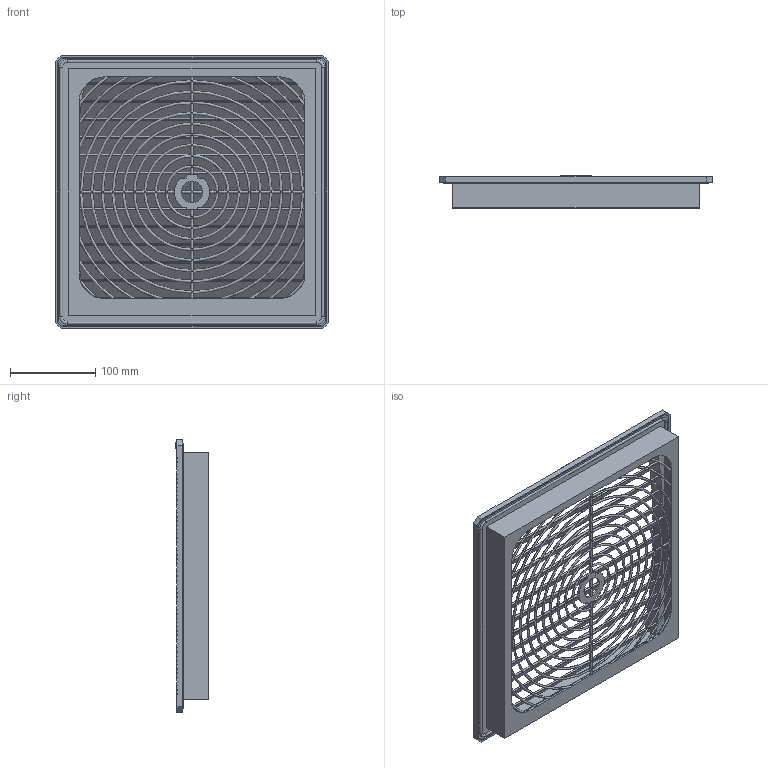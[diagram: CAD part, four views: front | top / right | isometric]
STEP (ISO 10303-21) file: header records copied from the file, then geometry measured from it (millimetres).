
FILE_DESCRIPTION (( 'STEP AP214' ), '1' );
FILE_NAME ('PFA 60000.STEP', '2007-05-30T10:04:43', ( 'Pfannenberg' ), ( 'Pfannenberg Group' ), 'SwSTEP 2.0', 'SolidWorks 2007', '' );
FILE_SCHEMA (( 'AUTOMOTIVE_DESIGN' ));
Length unit declared in the file: millimetre
Products named in the file (4): cover PF6x_Standard; housing PF6x_Standard; PFA 60000; 30162-013_Standard
Assembly tree (3 placements, depth 2):
  PFA 60000
    cover PF6x_Standard
    30162-013_Standard
    housing PF6x_Standard
Bounding box: 320 x 37.94 x 320 mm (x, y, z)
Volume: 608895.3 mm3; surface area: 485989.5 mm2
Topology: 3 solids, 3 shells, 1353 faces, 3804 edges, 2394 vertices
Faces by surface type: plane 622, cylinder 395, bspline 236, torus 100
Entity records: 58963 total; most frequent: CARTESIAN_POINT 26689, ORIENTED_EDGE 7608, DIRECTION 5330, EDGE_CURVE 3804, VERTEX_POINT 2394, VECTOR 1944, LINE 1944, AXIS2_PLACEMENT_3D 1693
